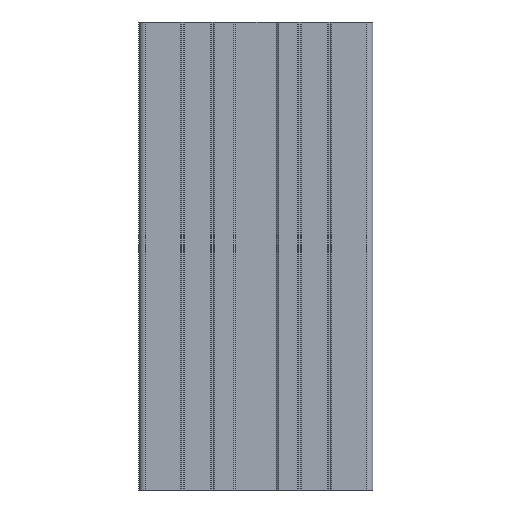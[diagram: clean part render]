
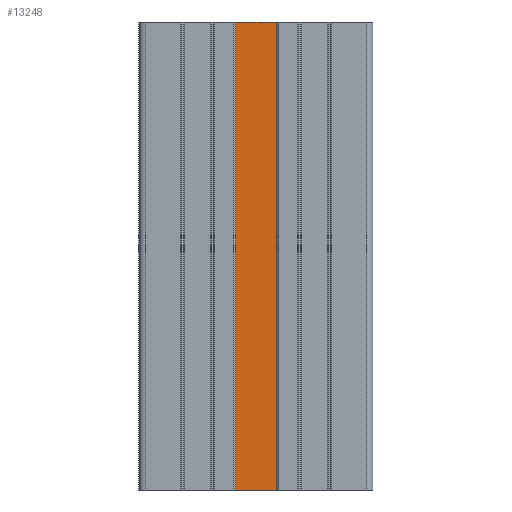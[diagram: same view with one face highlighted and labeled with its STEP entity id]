
A CAD part, left-side view. The second image highlights one B-rep face of the part: STEP entity #13248.
In plain terms, the highlighted planar face has unit normal (-1, 0, 0).
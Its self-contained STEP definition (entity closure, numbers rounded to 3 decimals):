
#13192=CARTESIAN_POINT('',(-44.,-7.7,180.0));
#13193=VERTEX_POINT('',#13192);
#13200=CARTESIAN_POINT('',(-44.,-7.7,0.0));
#13201=VERTEX_POINT('',#13200);
#13202=CARTESIAN_POINT('',(-44.,-7.7,0.0));
#13203=DIRECTION('',(0.0,0.0,1.0));
#13204=VECTOR('',#13203,180.0);
#13205=LINE('',#13202,#13204);
#13206=EDGE_CURVE('',#13201,#13193,#13205,.T.);
#13218=CARTESIAN_POINT('',(-44.,-7.7,0.0));
#13219=DIRECTION('',(-1.0,0.0,0.0));
#13220=DIRECTION('',(0.0,0.0,1.0));
#13221=AXIS2_PLACEMENT_3D('',#13218,#13219,#13220);
#13222=PLANE('',#13221);
#13223=CARTESIAN_POINT('',(-44.,7.7,180.0));
#13224=VERTEX_POINT('',#13223);
#13225=CARTESIAN_POINT('',(-44.,-7.7,180.0));
#13226=DIRECTION('',(0.0,1.0,0.0));
#13227=VECTOR('',#13226,15.4);
#13228=LINE('',#13225,#13227);
#13229=EDGE_CURVE('',#13193,#13224,#13228,.T.);
#13230=ORIENTED_EDGE('',*,*,#13229,.T.);
#13231=CARTESIAN_POINT('',(-44.,7.7,0.0));
#13232=VERTEX_POINT('',#13231);
#13233=CARTESIAN_POINT('',(-44.,7.7,0.0));
#13234=DIRECTION('',(0.0,0.0,1.0));
#13235=VECTOR('',#13234,180.0);
#13236=LINE('',#13233,#13235);
#13237=EDGE_CURVE('',#13232,#13224,#13236,.T.);
#13238=ORIENTED_EDGE('',*,*,#13237,.F.);
#13239=CARTESIAN_POINT('',(-44.,-7.7,0.0));
#13240=DIRECTION('',(0.0,1.0,0.0));
#13241=VECTOR('',#13240,15.4);
#13242=LINE('',#13239,#13241);
#13243=EDGE_CURVE('',#13201,#13232,#13242,.T.);
#13244=ORIENTED_EDGE('',*,*,#13243,.F.);
#13245=ORIENTED_EDGE('',*,*,#13206,.T.);
#13246=EDGE_LOOP('',(#13230,#13238,#13244,#13245));
#13247=FACE_OUTER_BOUND('',#13246,.T.);
#13248=ADVANCED_FACE('',(#13247),#13222,.T.);
